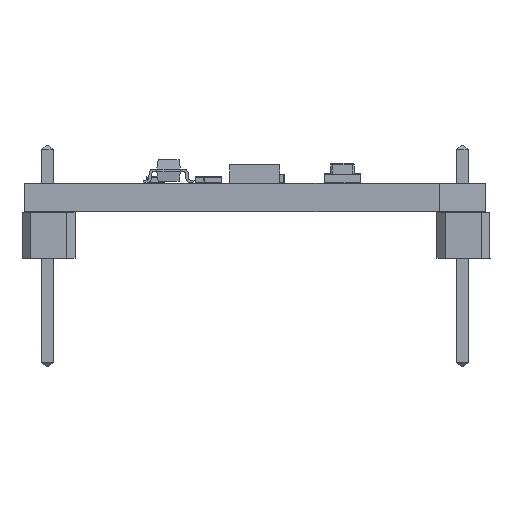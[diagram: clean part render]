
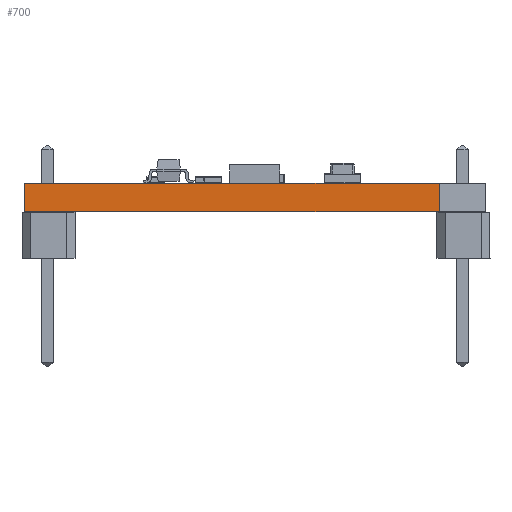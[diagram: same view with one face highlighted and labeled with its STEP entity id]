
A CAD part, front view. The second image highlights one B-rep face of the part: STEP entity #700.
In plain terms, the highlighted planar face has unit normal (0, -1, 0).
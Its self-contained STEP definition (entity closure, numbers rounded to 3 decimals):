
#675 = VERTEX_POINT('',#676);
#676 = CARTESIAN_POINT('',(21.59,-3.81,0.));
#682 = EDGE_CURVE('',#683,#675,#685,.T.);
#683 = VERTEX_POINT('',#684);
#684 = CARTESIAN_POINT('',(21.59,-3.81,-1.59));
#685 = LINE('',#686,#687);
#686 = CARTESIAN_POINT('',(21.59,-3.81,-1.59));
#687 = VECTOR('',#688,1.);
#688 = DIRECTION('',(0.,0.,1.));
#700 = ADVANCED_FACE('',(#701),#726,.T.);
#701 = FACE_BOUND('',#702,.T.);
#702 = EDGE_LOOP('',(#703,#704,#712,#720));
#703 = ORIENTED_EDGE('',*,*,#682,.T.);
#704 = ORIENTED_EDGE('',*,*,#705,.T.);
#705 = EDGE_CURVE('',#675,#706,#708,.T.);
#706 = VERTEX_POINT('',#707);
#707 = CARTESIAN_POINT('',(-1.27,-3.81,0.));
#708 = LINE('',#709,#710);
#709 = CARTESIAN_POINT('',(21.59,-3.81,0.));
#710 = VECTOR('',#711,1.);
#711 = DIRECTION('',(-1.,0.,0.));
#712 = ORIENTED_EDGE('',*,*,#713,.F.);
#713 = EDGE_CURVE('',#714,#706,#716,.T.);
#714 = VERTEX_POINT('',#715);
#715 = CARTESIAN_POINT('',(-1.27,-3.81,-1.59));
#716 = LINE('',#717,#718);
#717 = CARTESIAN_POINT('',(-1.27,-3.81,-1.59));
#718 = VECTOR('',#719,1.);
#719 = DIRECTION('',(0.,0.,1.));
#720 = ORIENTED_EDGE('',*,*,#721,.F.);
#721 = EDGE_CURVE('',#683,#714,#722,.T.);
#722 = LINE('',#723,#724);
#723 = CARTESIAN_POINT('',(21.59,-3.81,-1.59));
#724 = VECTOR('',#725,1.);
#725 = DIRECTION('',(-1.,0.,0.));
#726 = PLANE('',#727);
#727 = AXIS2_PLACEMENT_3D('',#728,#729,#730);
#728 = CARTESIAN_POINT('',(21.59,-3.81,-1.59));
#729 = DIRECTION('',(0.,-1.,0.));
#730 = DIRECTION('',(-1.,0.,0.));
